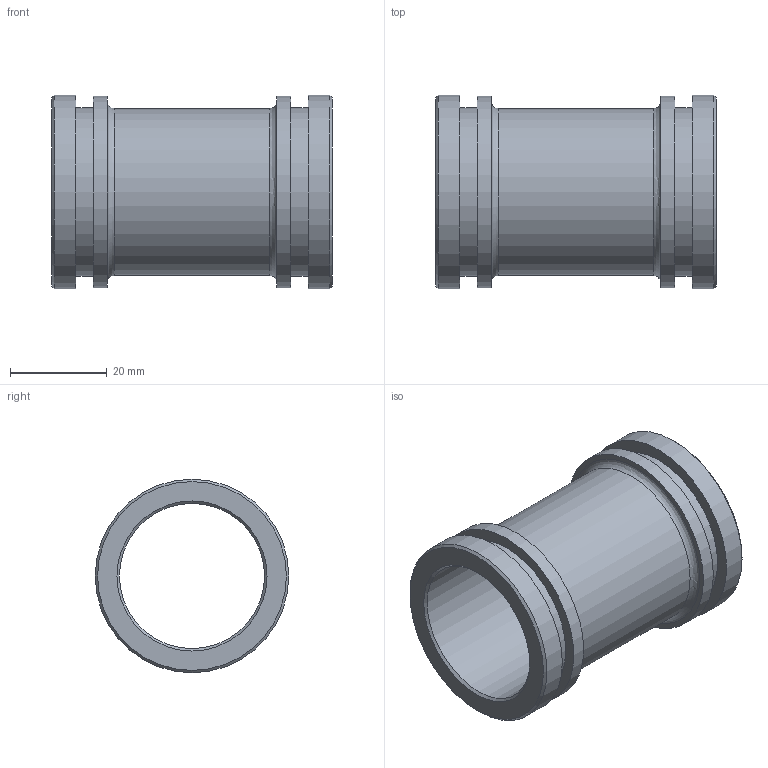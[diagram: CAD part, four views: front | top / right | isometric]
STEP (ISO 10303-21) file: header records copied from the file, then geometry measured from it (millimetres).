
FILE_DESCRIPTION((''),'2;1');
FILE_NAME('N:\CAD\ARCHIV\5350 (-999)\Standardhülsen\5350.030.058\Kundenteil 3D\5350.030.058 Kunden.stp','2008-05-09T10:27:45',('hwalkhoff'),(''),'Autodesk Inventor 11','Autodesk Inventor 11','');
FILE_SCHEMA(('AUTOMOTIVE_DESIGN { 1 0 10303 214 1 1 1 1 }'));
Length unit declared in the file: millimetre
Products named in the file (1): Hülse für Kunden
Bounding box: 58 x 40 x 40 mm (x, y, z)
Volume: 18253.5 mm3; surface area: 14613.4 mm2
Topology: 1 solids, 1 shells, 22 faces, 36 edges, 22 vertices
Faces by surface type: cylinder 8, plane 8, cone 4, bspline 2
Full cylindrical faces by diameter (mm): 30 x1, 34.5 x1, 34.76 x2, 39.5 x2, 40 x2
Entity records: 551 total; most frequent: CARTESIAN_POINT 155, DIRECTION 86, ORIENTED_EDGE 44, EDGE_LOOP 44, AXIS2_PLACEMENT_3D 43, VERTEX_POINT 22, CIRCLE 22, EDGE_CURVE 22
